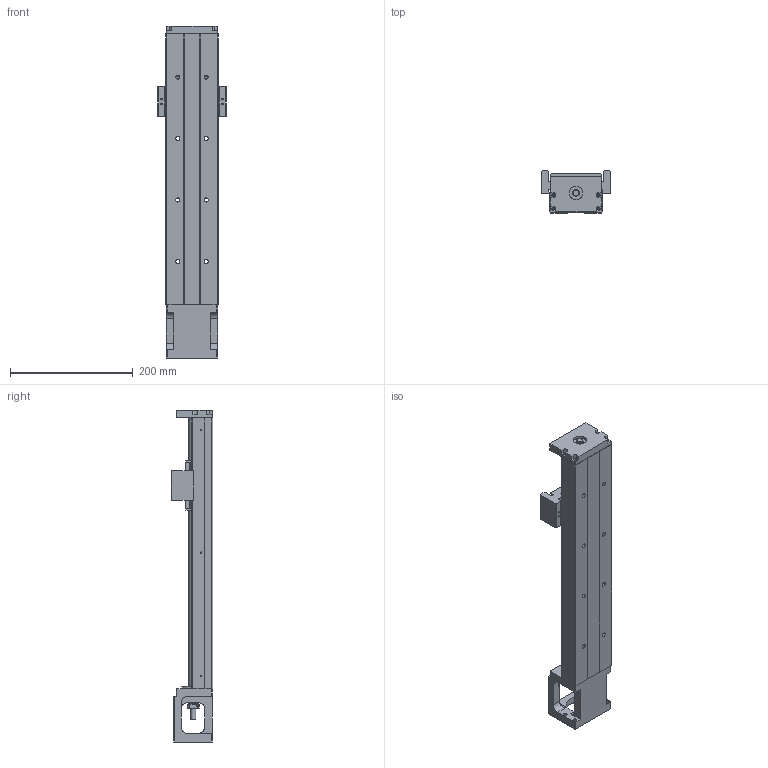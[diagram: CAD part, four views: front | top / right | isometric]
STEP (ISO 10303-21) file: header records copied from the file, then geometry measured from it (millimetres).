
FILE_DESCRIPTION(/* description */ (''),/* implementation_level */ '2;1');
FILE_NAME(/* name */ '46S-440.stp',/* time_stamp */ '2019-09-05T13:24:38+08:00',/* author */ (''),/* organization */ (''),/* preprocessor_version */ 'ST-DEVELOPER v16',/* originating_system */ 'SIEMENS PLM Software NX 10.0',/* authorisation */ '');
FILE_SCHEMA (('AP203_CONFIGURATION_CONTROLLED_3D_DESIGN_OF_MECHANICAL_PARTS_AND_ASSEMBLIES_MIM_LF { 1 0 10303 403 2 1 2}'));
Length unit declared in the file: millimetre
Products named in the file (1): 0154B620C536ce7j
Bounding box: 112 x 68 x 540 mm (x, y, z)
Volume: 1242456.5 mm3; surface area: 273927.2 mm2
Topology: 6 solids, 17 shells, 651 faces, 1702 edges, 1128 vertices
Faces by surface type: plane 320, cylinder 229, cone 53, bspline 41, torus 8
Full cylindrical faces by diameter (mm): 2 x2, 2.11 x2, 2.15 x6, 2.42 x6, 2.5 x4, 3 x4, 3.2 x4, 3.3 x12, 3.4 x8, 4 x2, 4.2 x4, 4.5 x8, 5 x8, 6 x8, 6.35 x2, 6.6 x7, 6.7 x2, 8 x1, 8.7 x4, 9.6 x1, 10 x3, 11 x8, 12 x1, 14.95 x2, 15 x1, 16 x2, 22 x3, 27.5 x1, 44 x1, 50 x1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
Entity records: 27669 total; most frequent: CARTESIAN_POINT 12831, ORIENTED_EDGE 2940, DIRECTION 2862, EDGE_CURVE 1470, VERTEX_POINT 1061, AXIS2_PLACEMENT_3D 1055, EDGE_LOOP 913, LINE 752
